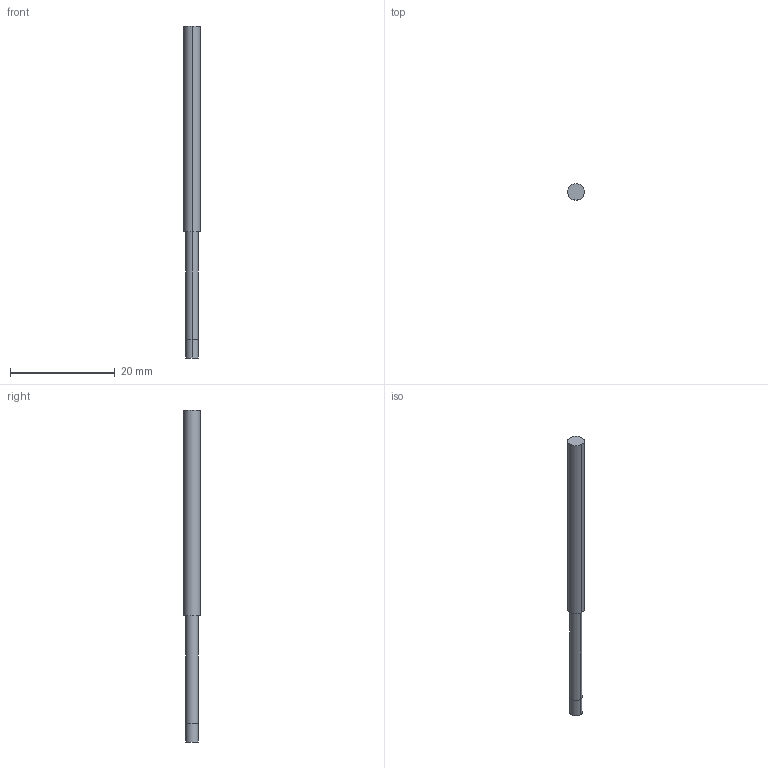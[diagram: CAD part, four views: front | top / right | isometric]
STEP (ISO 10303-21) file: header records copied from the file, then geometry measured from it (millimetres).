
FILE_DESCRIPTION((' '),'2;1');
FILE_NAME( '3MVS0938N10AH.stp', '2026-01-21T19:09:18', (' '), ('--- Datakit www.datakit.com---'), ' Datakit CrossCadWare V2025.4 Sep 19 2025', 'Mastercam 2027', ' ');
FILE_SCHEMA(('AUTOMOTIVE_DESIGN { 1 0 10303 214 1 1 1 1 }'));
Length unit declared in the file: inch
Products named in the file (1): 3MVS0938N10AH
Bounding box: 3.17 x 3.17 x 63.5 mm (x, y, z)
Volume: 419.3 mm3; surface area: 589.1 mm2
Topology: 1 solids, 1 shells, 9 faces, 16 edges, 10 vertices
Faces by surface type: cylinder 6, plane 3
Entity records: 302 total; most frequent: DIRECTION 54, CARTESIAN_POINT 40, ORIENTED_EDGE 32, AXIS2_PLACEMENT_3D 24, EDGE_CURVE 16, VERTEX_POINT 10, CIRCLE 10, EDGE_LOOP 10
